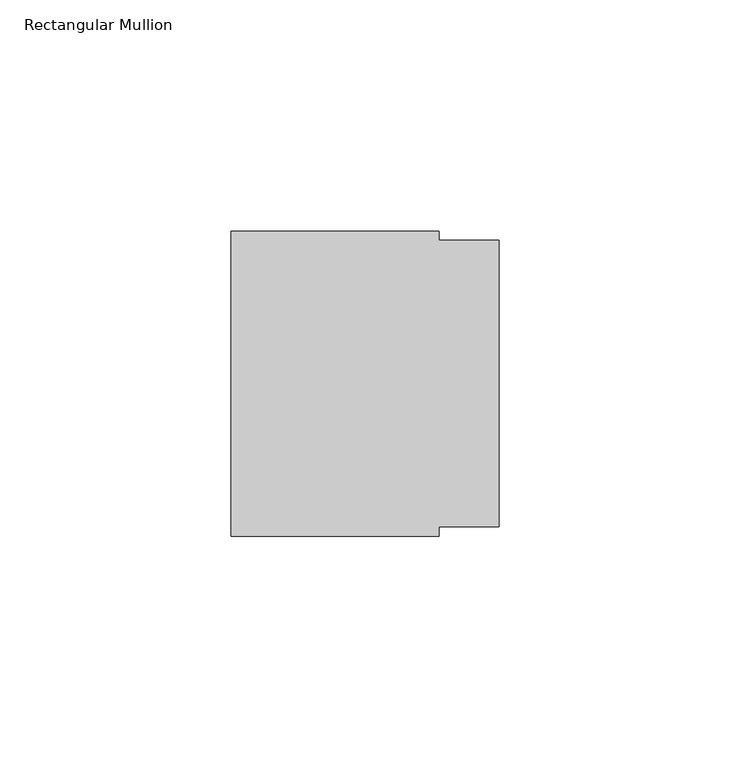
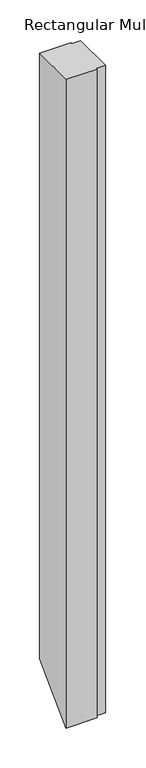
"""IFC4 building model written with IfcOpenShell, lengths in millimetres: member geometry, Rectangular Mullion : FLOOR_TRACK 85-KLS00-P80-RE58XC."""

from ifc_helpers import new_model, si_unit, origin, place, context, project, spatial, faceted_brep, source, transform, mapped, element, save


def rectangular_mullion_abafef46(model_context):
    return source(origin(), model_context, "Body", "Brep", [
        faceted_brep([(-13.0, 33.0, 0.0), (-58.0, 33.0, 0.0), (-58.0, -33.0, 0.0), (-13.0, -33.0, 0.0), (-13.0, -31.0, 0.0), (0.0, -31.0, 0.0), (0.0, 31.0, 0.0), (-13.0, 31.0, 0.0), (-13.0, 33.0, -925.5), (-58.0, 33.0, -925.5), (-58.0, -33.0, -991.5), (-13.0, -33.0, -991.5), (-13.0, -31.0, -989.5), (0.0, -31.0, -989.5), (0.0, 31.0, -927.5), (-13.0, 31.0, -927.5)], [[[0, 1, 2, 3, 4, 5, 6, 7]], [[1, 0, 8, 9]], [[2, 1, 9, 10]], [[3, 2, 10, 11]], [[4, 3, 11, 12]], [[5, 4, 12, 13]], [[6, 5, 13, 14]], [[7, 6, 14, 15]], [[0, 7, 15, 8]], [[8, 15, 14, 13, 12, 11, 10, 9]]]),
    ])


if __name__ == "__main__":
    model = new_model("IFC4")
    model_context = context("Model", 3, world=origin())
    ifc_project = project(units=[si_unit("LENGTHUNIT", "METRE", prefix="MILLI")], contexts=[model_context])
    site = spatial("IfcSite", under=ifc_project)
    building = spatial("IfcBuilding", under=site)
    placement = place(None, origin())
    rectangular_mullion_shape = rectangular_mullion_abafef46(model_context)
    element("IfcMember", 1, ObjectType="Rectangular Mullion : FLOOR_TRACK 85-KLS00-P80-RE58XC", at=placement, inside=building, context=model_context, shape_type="MappedRepresentation", body=[
        mapped(rectangular_mullion_shape, transform((0.0, 0.0, 0.0), x_axis=(1.0, 0.0, 0.0), y_axis=(0.0, 1.0, 0.0), z_axis=(0.0, 0.0, 1.0))),
    ])
    save(model, "model.ifc")
